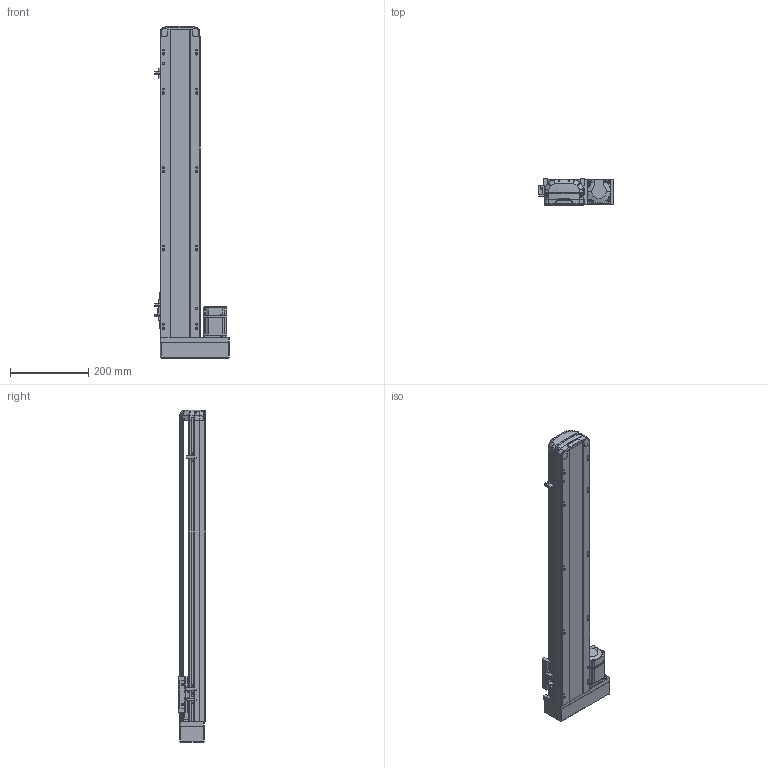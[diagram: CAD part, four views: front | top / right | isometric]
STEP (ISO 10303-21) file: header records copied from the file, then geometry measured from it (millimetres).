
FILE_DESCRIPTION (( 'STEP AP214' ), '1' );
FILE_NAME ('RTH10-XX-600-R-M20-C4.STEP', '2025-10-25T05:00:40', ( 'Microsoft' ), ( 'Microsoft' ), 'SwSTEP 2.0', 'SolidWorks 2018', '' );
FILE_SCHEMA (( 'AUTOMOTIVE_DESIGN' ));
Length unit declared in the file: millimetre
Products named in the file (10): N_RTH10-L-018-裔赽^RTH10-XX-XX-R-M20-C4; N_RTH10-L-008萇儂啣^RTH10-XX-XX-R-M20-C4; N_RTH13-L-012覜茼え俋离^RTH10-XX-XX-R-M20-C4; RTH10-XX-600-R-M20-C4; N_RTH10-GY-001P^RTH10-XX-XX-R-M20-C4; N_RTH10-M-011P-臏倰第菁釱^RTH10-XX-XX-R-M20-C4; N_RTH10-M-007P-奻裔^RTH10-XX-XX-R-M20-C4; N_200W-1^RTH10-XX-XX-R-M20-C4; N_RTH10-GY-004-賑釱^RTH10-XX-XX-R-M20-C4; N_OMRON EE-SX672 传感器^RTH10-XX-XX-R-M20-C4
Assembly tree (11 placements, depth 2):
  RTH10-XX-600-R-M20-C4
    N_RTH10-M-011P-臏倰第菁釱^RTH10-XX-XX-R-M20-C4
    N_RTH13-L-012覜茼え俋离^RTH10-XX-XX-R-M20-C4
    N_OMRON EE-SX672 传感器^RTH10-XX-XX-R-M20-C4  x3
    N_200W-1^RTH10-XX-XX-R-M20-C4
    N_RTH10-M-007P-奻裔^RTH10-XX-XX-R-M20-C4
    N_RTH10-L-008萇儂啣^RTH10-XX-XX-R-M20-C4
    N_RTH10-L-018-裔赽^RTH10-XX-XX-R-M20-C4
    N_RTH10-GY-004-賑釱^RTH10-XX-XX-R-M20-C4
    N_RTH10-GY-001P^RTH10-XX-XX-R-M20-C4
Bounding box: 190 x 70 x 847.14 mm (x, y, z)
Volume: 3879124.7 mm3; surface area: 591161.8 mm2
Topology: 10 solids, 12 shells, 1976 faces, 5509 edges, 3617 vertices
Faces by surface type: plane 983, cylinder 486, bspline 472, cone 29, sphere 4, torus 2
Entity records: 59499 total; most frequent: CARTESIAN_POINT 23365, ORIENTED_EDGE 8090, DIRECTION 6263, EDGE_CURVE 4051, VERTEX_POINT 2661, LINE 2169, VECTOR 2169, AXIS2_PLACEMENT_3D 2047
